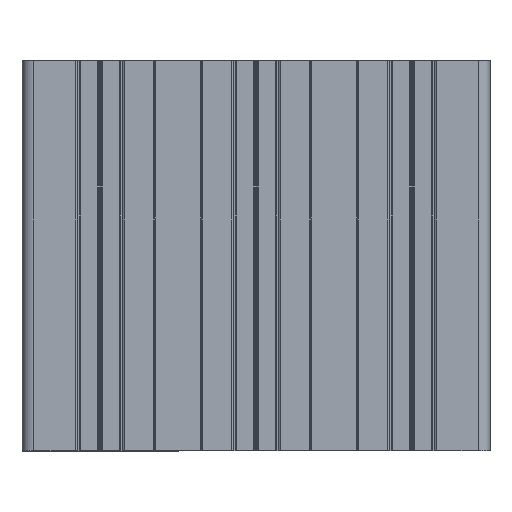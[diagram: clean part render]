
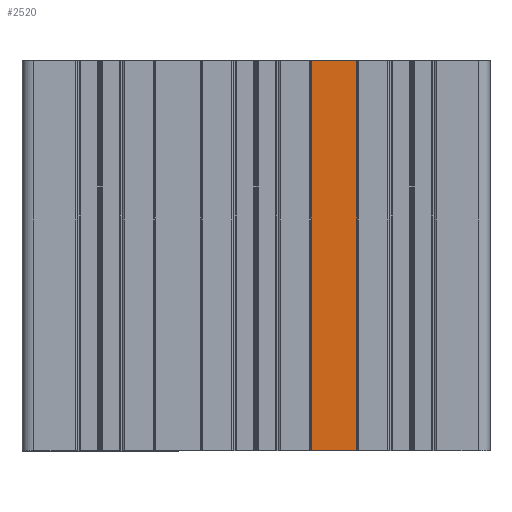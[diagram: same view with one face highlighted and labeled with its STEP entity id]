
A CAD part, top view. The second image highlights one B-rep face of the part: STEP entity #2520.
In plain terms, the highlighted planar face has unit normal (0, 0, 1).
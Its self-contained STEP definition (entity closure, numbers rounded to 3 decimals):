
#2520 = ADVANCED_FACE( '', ( #5130 ), #5131, .F. );
#5130 = FACE_OUTER_BOUND( '', #7799, .T. );
#5131 = PLANE( '', #7800 );
#7799 = EDGE_LOOP( '', ( #16223, #16224, #16225, #16226 ) );
#7800 = AXIS2_PLACEMENT_3D( '', #16227, #16228, #16229 );
#16223 = ORIENTED_EDGE( '', *, *, #18185, .T. );
#16224 = ORIENTED_EDGE( '', *, *, #19497, .F. );
#16225 = ORIENTED_EDGE( '', *, *, #18770, .F. );
#16226 = ORIENTED_EDGE( '', *, *, #20134, .T. );
#16227 = CARTESIAN_POINT( '', ( 25.8, 100., 59. ) );
#16228 = DIRECTION( '', ( 0., 0., -1. ) );
#16229 = DIRECTION( '', ( -1., 0., 0. ) );
#18185 = EDGE_CURVE( '', #22746, #22744, #22747, .T. );
#18770 = EDGE_CURVE( '', #23717, #23719, #23720, .T. );
#19497 = EDGE_CURVE( '', #23719, #22744, #24755, .T. );
#20134 = EDGE_CURVE( '', #23717, #22746, #25392, .T. );
#22744 = VERTEX_POINT( '', #28783 );
#22746 = VERTEX_POINT( '', #28785 );
#22747 = LINE( '', #28786, #28787 );
#23717 = VERTEX_POINT( '', #30044 );
#23719 = VERTEX_POINT( '', #30046 );
#23720 = LINE( '', #30047, #30048 );
#24755 = LINE( '', #31450, #31451 );
#25392 = LINE( '', #32353, #32354 );
#28783 = CARTESIAN_POINT( '', ( 25.8, 0., 59. ) );
#28785 = CARTESIAN_POINT( '', ( 14.2, 0., 59. ) );
#28786 = CARTESIAN_POINT( '', ( 25.8, 0., 59. ) );
#28787 = VECTOR( '', #34567, 1000. );
#30044 = CARTESIAN_POINT( '', ( 14.2, 100., 59. ) );
#30046 = CARTESIAN_POINT( '', ( 25.8, 100., 59. ) );
#30047 = CARTESIAN_POINT( '', ( 25.8, 100., 59. ) );
#30048 = VECTOR( '', #35617, 1000. );
#31450 = CARTESIAN_POINT( '', ( 25.8, 100., 59. ) );
#31451 = VECTOR( '', #36669, 1000. );
#32353 = CARTESIAN_POINT( '', ( 14.2, 100., 59. ) );
#32354 = VECTOR( '', #36935, 1000. );
#34567 = DIRECTION( '', ( 1., 0., 0. ) );
#35617 = DIRECTION( '', ( 1., 0., 0. ) );
#36669 = DIRECTION( '', ( 0., -1., 0. ) );
#36935 = DIRECTION( '', ( 0., -1., 0. ) );
